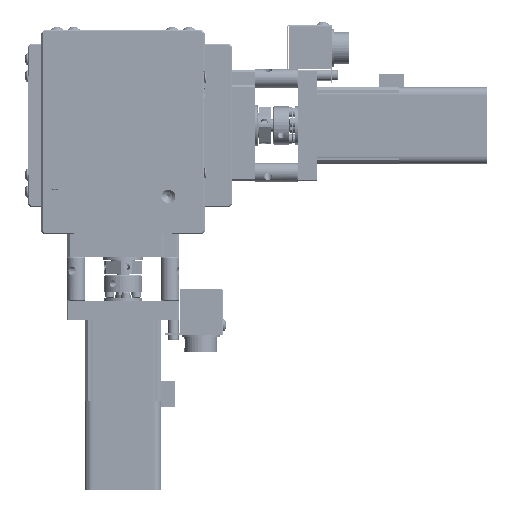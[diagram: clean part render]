
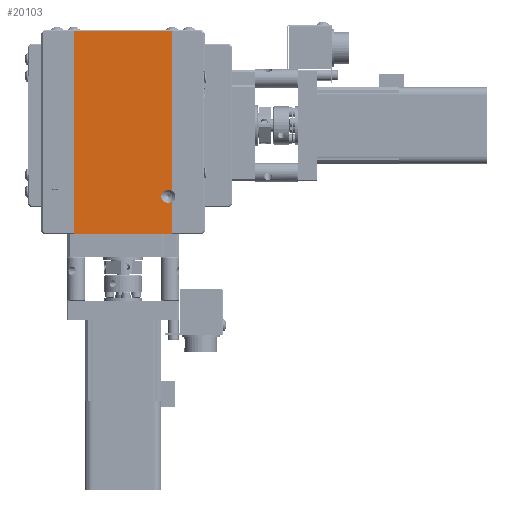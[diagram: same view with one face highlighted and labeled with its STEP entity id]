
A CAD part, front view. The second image highlights one B-rep face of the part: STEP entity #20103.
In plain terms, the highlighted planar face has unit normal (0, -1, 0).
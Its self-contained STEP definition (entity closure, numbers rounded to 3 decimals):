
#4 = LINE ( 'NONE', #48551, #11253 ) ;
#1306 = DIRECTION ( 'NONE',  ( 0., 0., -1. ) ) ;
#2000 = CARTESIAN_POINT ( 'NONE',  ( -31.949, -11.301, 4.094 ) ) ;
#2617 = AXIS2_PLACEMENT_3D ( 'NONE', #67796, #19598, #50202 ) ;
#3170 = ORIENTED_EDGE ( 'NONE', *, *, #39513, .T. ) ;
#3282 = CIRCLE ( 'NONE', #57212, 2.4 ) ;
#4881 = CARTESIAN_POINT ( 'NONE',  ( 4.051, -11.301, 4.294 ) ) ;
#6339 = EDGE_CURVE ( 'NONE', #18513, #50232, #66057, .T. ) ;
#6910 = LINE ( 'NONE', #49840, #20874 ) ;
#8237 = VERTEX_POINT ( 'NONE', #36663 ) ;
#11145 = CARTESIAN_POINT ( 'NONE',  ( 4.051, -11.301, 16.221 ) ) ;
#11253 = VECTOR ( 'NONE', #42937, 1000. ) ;
#13579 = DIRECTION ( 'NONE',  ( -1., 0., 0. ) ) ;
#18513 = VERTEX_POINT ( 'NONE', #30137 ) ;
#19598 = DIRECTION ( 'NONE',  ( 0., 1., 0. ) ) ;
#20103 = ADVANCED_FACE ( 'NONE', ( #47846 ), #31682, .T. ) ;
#20839 = EDGE_CURVE ( 'NONE', #25235, #28866, #35205, .T. ) ;
#20874 = VECTOR ( 'NONE', #13579, 1000. ) ;
#22621 = EDGE_CURVE ( 'NONE', #8237, #44878, #45123, .T. ) ;
#25235 = VERTEX_POINT ( 'NONE', #69024 ) ;
#26112 = AXIS2_PLACEMENT_3D ( 'NONE', #69330, #27107, #53828 ) ;
#27058 = VECTOR ( 'NONE', #66614, 1000. ) ;
#27107 = DIRECTION ( 'NONE',  ( 0., -1., 0. ) ) ;
#28866 = VERTEX_POINT ( 'NONE', #68242 ) ;
#29588 = AXIS2_PLACEMENT_3D ( 'NONE', #52517, #36351, #62078 ) ;
#30137 = CARTESIAN_POINT ( 'NONE',  ( -31.949, -11.301, 78.894 ) ) ;
#31682 = PLANE ( 'NONE',  #26112 ) ;
#32867 = EDGE_CURVE ( 'NONE', #59204, #25235, #32930, .T. ) ;
#32930 = CIRCLE ( 'NONE', #29588, 2.4 ) ;
#35205 = CIRCLE ( 'NONE', #2617, 2.4 ) ;
#36351 = DIRECTION ( 'NONE',  ( 0., 1., 0. ) ) ;
#36353 = DIRECTION ( 'NONE',  ( 1., 0., 0. ) ) ;
#36663 = CARTESIAN_POINT ( 'NONE',  ( 4.051, -11.301, 19.968 ) ) ;
#39513 = EDGE_CURVE ( 'NONE', #44878, #18513, #6910, .T. ) ;
#40065 = CARTESIAN_POINT ( 'NONE',  ( -31.949, -11.301, 4.294 ) ) ;
#40444 = ORIENTED_EDGE ( 'NONE', *, *, #20839, .T. ) ;
#41239 = ORIENTED_EDGE ( 'NONE', *, *, #32867, .T. ) ;
#41940 = DIRECTION ( 'NONE',  ( 0., 1., 0. ) ) ;
#42937 = DIRECTION ( 'NONE',  ( 0., 0., 1. ) ) ;
#44878 = VERTEX_POINT ( 'NONE', #52436 ) ;
#45123 = LINE ( 'NONE', #57658, #27058 ) ;
#47104 = ORIENTED_EDGE ( 'NONE', *, *, #67604, .T. ) ;
#47231 = LINE ( 'NONE', #68355, #62788 ) ;
#47846 = FACE_OUTER_BOUND ( 'NONE', #53888, .T. ) ;
#48019 = VECTOR ( 'NONE', #1306, 1000. ) ;
#48551 = CARTESIAN_POINT ( 'NONE',  ( 4.051, -11.301, 4.094 ) ) ;
#49840 = CARTESIAN_POINT ( 'NONE',  ( -13.949, -11.301, 78.894 ) ) ;
#50202 = DIRECTION ( 'NONE',  ( 0., 0., -1. ) ) ;
#50232 = VERTEX_POINT ( 'NONE', #40065 ) ;
#51950 = EDGE_CURVE ( 'NONE', #28866, #8237, #3282, .T. ) ;
#52436 = CARTESIAN_POINT ( 'NONE',  ( 4.051, -11.301, 78.894 ) ) ;
#52517 = CARTESIAN_POINT ( 'NONE',  ( 2.551, -11.301, 18.094 ) ) ;
#52681 = ORIENTED_EDGE ( 'NONE', *, *, #69187, .T. ) ;
#52829 = CARTESIAN_POINT ( 'NONE',  ( 2.551, -11.301, 18.094 ) ) ;
#53659 = ORIENTED_EDGE ( 'NONE', *, *, #6339, .T. ) ;
#53828 = DIRECTION ( 'NONE',  ( 0., 0., -1. ) ) ;
#53888 = EDGE_LOOP ( 'NONE', ( #60986, #64759, #3170, #53659, #47104, #52681, #41239, #40444 ) ) ;
#56673 = VERTEX_POINT ( 'NONE', #4881 ) ;
#57212 = AXIS2_PLACEMENT_3D ( 'NONE', #52829, #41940, #68322 ) ;
#57658 = CARTESIAN_POINT ( 'NONE',  ( 4.051, -11.301, 4.094 ) ) ;
#59204 = VERTEX_POINT ( 'NONE', #11145 ) ;
#60986 = ORIENTED_EDGE ( 'NONE', *, *, #51950, .T. ) ;
#62078 = DIRECTION ( 'NONE',  ( 0., 0., -1. ) ) ;
#62788 = VECTOR ( 'NONE', #36353, 1000. ) ;
#64759 = ORIENTED_EDGE ( 'NONE', *, *, #22621, .T. ) ;
#66057 = LINE ( 'NONE', #2000, #48019 ) ;
#66614 = DIRECTION ( 'NONE',  ( 0., 0., 1. ) ) ;
#67604 = EDGE_CURVE ( 'NONE', #50232, #56673, #47231, .T. ) ;
#67796 = CARTESIAN_POINT ( 'NONE',  ( 2.551, -11.301, 18.094 ) ) ;
#68242 = CARTESIAN_POINT ( 'NONE',  ( 2.551, -11.301, 20.494 ) ) ;
#68322 = DIRECTION ( 'NONE',  ( 0., 0., -1. ) ) ;
#68355 = CARTESIAN_POINT ( 'NONE',  ( -13.949, -11.301, 4.294 ) ) ;
#69024 = CARTESIAN_POINT ( 'NONE',  ( 2.551, -11.301, 15.694 ) ) ;
#69187 = EDGE_CURVE ( 'NONE', #56673, #59204, #4, .T. ) ;
#69330 = CARTESIAN_POINT ( 'NONE',  ( -13.949, -11.301, 4.094 ) ) ;
